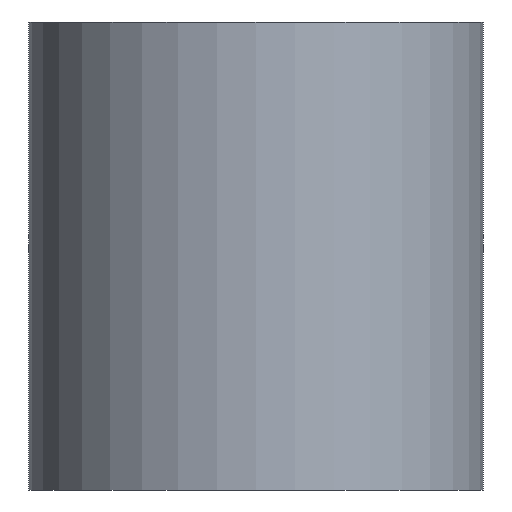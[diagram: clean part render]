
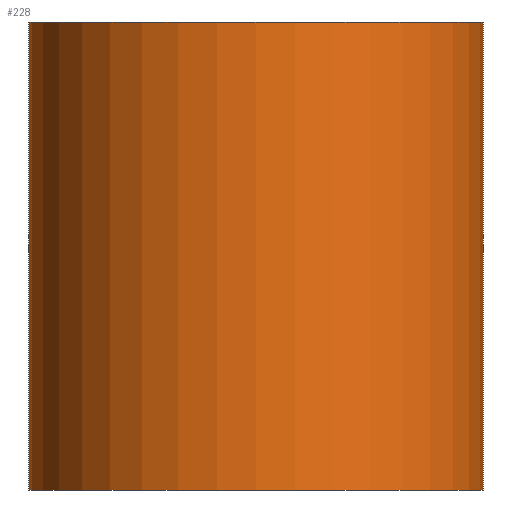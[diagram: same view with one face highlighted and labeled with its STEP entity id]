
A CAD part, left-side view. The second image highlights one B-rep face of the part: STEP entity #228.
In plain terms, the highlighted cylindrical face has radius 5 mm (diameter 10 mm), a partial arc.
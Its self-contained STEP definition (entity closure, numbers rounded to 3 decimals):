
#44 = PLANE('',#45);
#45 = AXIS2_PLACEMENT_3D('',#46,#47,#48);
#46 = CARTESIAN_POINT('',(-62.925,5.,0.));
#47 = DIRECTION('',(0.,1.,0.));
#48 = DIRECTION('',(1.,0.,0.));
#73 = PLANE('',#74);
#74 = AXIS2_PLACEMENT_3D('',#75,#76,#77);
#75 = CARTESIAN_POINT('',(0.,0.,10.3));
#76 = DIRECTION('',(0.,0.,1.));
#77 = DIRECTION('',(1.,0.,-0.));
#105 = PLANE('',#106);
#106 = AXIS2_PLACEMENT_3D('',#107,#108,#109);
#107 = CARTESIAN_POINT('',(0.,-5.,0.));
#108 = DIRECTION('',(0.,1.,0.));
#109 = DIRECTION('',(1.,0.,0.));
#132 = PLANE('',#133);
#133 = AXIS2_PLACEMENT_3D('',#134,#135,#136);
#134 = CARTESIAN_POINT('',(0.,0.,0.));
#135 = DIRECTION('',(0.,0.,1.));
#136 = DIRECTION('',(1.,0.,-0.));
#153 = VERTEX_POINT('',#154);
#154 = CARTESIAN_POINT('',(-62.925,-5.,10.3));
#175 = EDGE_CURVE('',#153,#176,#178,.T.);
#176 = VERTEX_POINT('',#177);
#177 = CARTESIAN_POINT('',(-62.925,5.,10.3));
#178 = SURFACE_CURVE('',#179,(#184,#195),.PCURVE_S1.);
#179 = CIRCLE('',#180,5.);
#180 = AXIS2_PLACEMENT_3D('',#181,#182,#183);
#181 = CARTESIAN_POINT('',(-62.925,0.,10.3));
#182 = DIRECTION('',(0.,0.,-1.));
#183 = DIRECTION('',(1.,0.,0.));
#184 = PCURVE('',#73,#185);
#185 = DEFINITIONAL_REPRESENTATION('',(#186),#194);
#186 = ( BOUNDED_CURVE() B_SPLINE_CURVE(2,(#187,#188,#189,#190,#191,#192
,#193),.UNSPECIFIED.,.T.,.F.) B_SPLINE_CURVE_WITH_KNOTS((1,2,2,2,2,1),(
    -2.094,0.,2.094,4.189,6.283,
8.378),.UNSPECIFIED.) CURVE() GEOMETRIC_REPRESENTATION_ITEM() 
RATIONAL_B_SPLINE_CURVE((1.,0.5,1.,0.5,1.,0.5,1.)) REPRESENTATION_ITEM(
  '') );
#187 = CARTESIAN_POINT('',(-57.925,0.));
#188 = CARTESIAN_POINT('',(-57.925,-8.66));
#189 = CARTESIAN_POINT('',(-65.425,-4.33));
#190 = CARTESIAN_POINT('',(-72.925,0.));
#191 = CARTESIAN_POINT('',(-65.425,4.33));
#192 = CARTESIAN_POINT('',(-57.925,8.66));
#193 = CARTESIAN_POINT('',(-57.925,0.));
#194 = ( GEOMETRIC_REPRESENTATION_CONTEXT(2) 
PARAMETRIC_REPRESENTATION_CONTEXT() REPRESENTATION_CONTEXT('2D SPACE',''
  ) );
#195 = PCURVE('',#196,#201);
#196 = CYLINDRICAL_SURFACE('',#197,5.);
#197 = AXIS2_PLACEMENT_3D('',#198,#199,#200);
#198 = CARTESIAN_POINT('',(-62.925,0.,0.));
#199 = DIRECTION('',(0.,0.,-1.));
#200 = DIRECTION('',(1.,0.,0.));
#201 = DEFINITIONAL_REPRESENTATION('',(#202),#206);
#202 = LINE('',#203,#204);
#203 = CARTESIAN_POINT('',(0.,-10.3));
#204 = VECTOR('',#205,1.);
#205 = DIRECTION('',(1.,0.));
#206 = ( GEOMETRIC_REPRESENTATION_CONTEXT(2) 
PARAMETRIC_REPRESENTATION_CONTEXT() REPRESENTATION_CONTEXT('2D SPACE',''
  ) );
#228 = ADVANCED_FACE('',(#229),#196,.T.);
#229 = FACE_BOUND('',#230,.T.);
#230 = EDGE_LOOP('',(#231,#254,#255,#278));
#231 = ORIENTED_EDGE('',*,*,#232,.T.);
#232 = EDGE_CURVE('',#233,#153,#235,.T.);
#233 = VERTEX_POINT('',#234);
#234 = CARTESIAN_POINT('',(-62.925,-5.,0.));
#235 = SURFACE_CURVE('',#236,(#240,#247),.PCURVE_S1.);
#236 = LINE('',#237,#238);
#237 = CARTESIAN_POINT('',(-62.925,-5.,0.));
#238 = VECTOR('',#239,1.);
#239 = DIRECTION('',(0.,0.,1.));
#240 = PCURVE('',#196,#241);
#241 = DEFINITIONAL_REPRESENTATION('',(#242),#246);
#242 = LINE('',#243,#244);
#243 = CARTESIAN_POINT('',(1.571,0.));
#244 = VECTOR('',#245,1.);
#245 = DIRECTION('',(0.,-1.));
#246 = ( GEOMETRIC_REPRESENTATION_CONTEXT(2) 
PARAMETRIC_REPRESENTATION_CONTEXT() REPRESENTATION_CONTEXT('2D SPACE',''
  ) );
#247 = PCURVE('',#105,#248);
#248 = DEFINITIONAL_REPRESENTATION('',(#249),#253);
#249 = LINE('',#250,#251);
#250 = CARTESIAN_POINT('',(-62.925,0.));
#251 = VECTOR('',#252,1.);
#252 = DIRECTION('',(0.,-1.));
#253 = ( GEOMETRIC_REPRESENTATION_CONTEXT(2) 
PARAMETRIC_REPRESENTATION_CONTEXT() REPRESENTATION_CONTEXT('2D SPACE',''
  ) );
#254 = ORIENTED_EDGE('',*,*,#175,.T.);
#255 = ORIENTED_EDGE('',*,*,#256,.F.);
#256 = EDGE_CURVE('',#257,#176,#259,.T.);
#257 = VERTEX_POINT('',#258);
#258 = CARTESIAN_POINT('',(-62.925,5.,0.));
#259 = SURFACE_CURVE('',#260,(#264,#271),.PCURVE_S1.);
#260 = LINE('',#261,#262);
#261 = CARTESIAN_POINT('',(-62.925,5.,0.));
#262 = VECTOR('',#263,1.);
#263 = DIRECTION('',(0.,0.,1.));
#264 = PCURVE('',#196,#265);
#265 = DEFINITIONAL_REPRESENTATION('',(#266),#270);
#266 = LINE('',#267,#268);
#267 = CARTESIAN_POINT('',(4.712,0.));
#268 = VECTOR('',#269,1.);
#269 = DIRECTION('',(0.,-1.));
#270 = ( GEOMETRIC_REPRESENTATION_CONTEXT(2) 
PARAMETRIC_REPRESENTATION_CONTEXT() REPRESENTATION_CONTEXT('2D SPACE',''
  ) );
#271 = PCURVE('',#44,#272);
#272 = DEFINITIONAL_REPRESENTATION('',(#273),#277);
#273 = LINE('',#274,#275);
#274 = CARTESIAN_POINT('',(0.,0.));
#275 = VECTOR('',#276,1.);
#276 = DIRECTION('',(0.,-1.));
#277 = ( GEOMETRIC_REPRESENTATION_CONTEXT(2) 
PARAMETRIC_REPRESENTATION_CONTEXT() REPRESENTATION_CONTEXT('2D SPACE',''
  ) );
#278 = ORIENTED_EDGE('',*,*,#279,.F.);
#279 = EDGE_CURVE('',#233,#257,#280,.T.);
#280 = SURFACE_CURVE('',#281,(#286,#293),.PCURVE_S1.);
#281 = CIRCLE('',#282,5.);
#282 = AXIS2_PLACEMENT_3D('',#283,#284,#285);
#283 = CARTESIAN_POINT('',(-62.925,0.,0.));
#284 = DIRECTION('',(0.,0.,-1.));
#285 = DIRECTION('',(1.,0.,0.));
#286 = PCURVE('',#196,#287);
#287 = DEFINITIONAL_REPRESENTATION('',(#288),#292);
#288 = LINE('',#289,#290);
#289 = CARTESIAN_POINT('',(0.,0.));
#290 = VECTOR('',#291,1.);
#291 = DIRECTION('',(1.,0.));
#292 = ( GEOMETRIC_REPRESENTATION_CONTEXT(2) 
PARAMETRIC_REPRESENTATION_CONTEXT() REPRESENTATION_CONTEXT('2D SPACE',''
  ) );
#293 = PCURVE('',#132,#294);
#294 = DEFINITIONAL_REPRESENTATION('',(#295),#303);
#295 = ( BOUNDED_CURVE() B_SPLINE_CURVE(2,(#296,#297,#298,#299,#300,#301
,#302),.UNSPECIFIED.,.T.,.F.) B_SPLINE_CURVE_WITH_KNOTS((1,2,2,2,2,1),(
    -2.094,0.,2.094,4.189,6.283,
8.378),.UNSPECIFIED.) CURVE() GEOMETRIC_REPRESENTATION_ITEM() 
RATIONAL_B_SPLINE_CURVE((1.,0.5,1.,0.5,1.,0.5,1.)) REPRESENTATION_ITEM(
  '') );
#296 = CARTESIAN_POINT('',(-57.925,0.));
#297 = CARTESIAN_POINT('',(-57.925,-8.66));
#298 = CARTESIAN_POINT('',(-65.425,-4.33));
#299 = CARTESIAN_POINT('',(-72.925,0.));
#300 = CARTESIAN_POINT('',(-65.425,4.33));
#301 = CARTESIAN_POINT('',(-57.925,8.66));
#302 = CARTESIAN_POINT('',(-57.925,0.));
#303 = ( GEOMETRIC_REPRESENTATION_CONTEXT(2) 
PARAMETRIC_REPRESENTATION_CONTEXT() REPRESENTATION_CONTEXT('2D SPACE',''
  ) );
